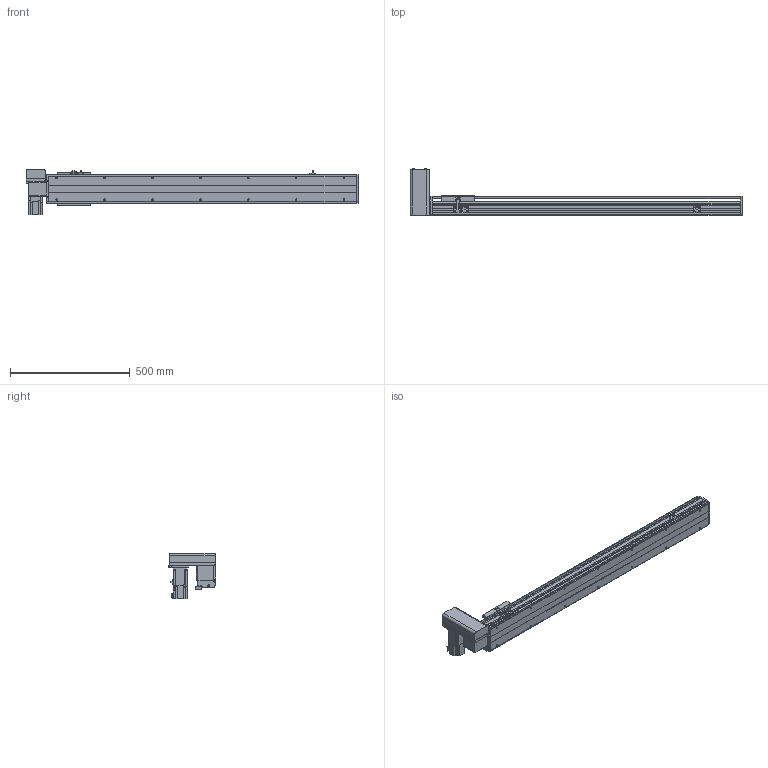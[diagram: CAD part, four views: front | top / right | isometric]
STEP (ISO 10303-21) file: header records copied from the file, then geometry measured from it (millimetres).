
FILE_DESCRIPTION( ( 'STEP AP214' ), '1' );
FILE_NAME( 'x:/temp/worker_27/temp/exporttempdir_6708_231_TDQXR/format_0/PBS120-P40-S1000-RU-T40-C1-N(0).stp', '2022-06-06T00:49:34', ( 'License CC BY-ND 4.0' ), ( 'CADENAS' ), ' ', 'PARTsolutions', ' ' );
FILE_SCHEMA( ( 'AUTOMOTIVE_DESIGN { 1 0 10303 214 1 1 1 1 }' ) );
Length unit declared in the file: millimetre
Products named in the file (7): PBS120-P40-S1000-RU-T40-C1-N(0); _PBS120-S1000()_body; _PBS120T-RU_motors; _T40-p1; _PBS120_sliser; _PBS120_plant; _PBS120_sensor
Assembly tree (8 placements, depth 2):
  PBS120-P40-S1000-RU-T40-C1-N(0)
    _PBS120-S1000()_body
    _PBS120T-RU_motors
    _T40-p1
    _PBS120_sliser
    _PBS120_plant
    _PBS120_sensor  x3
Bounding box: 1386 x 198 x 189.7 mm (x, y, z)
Volume: 5961401.7 mm3; surface area: 1163655.3 mm2
Topology: 8 solids, 8 shells, 822 faces, 2146 edges, 1381 vertices
Faces by surface type: plane 547, cylinder 227, cone 46, torus 2
Full cylindrical faces by diameter (mm): 2.459 x6, 3.242 x4, 4 x2, 4.134 x4, 4.5 x10, 4.917 x18, 5.5 x11, 6 x2, 6.6 x1, 7 x2, 8.5 x4, 9 x4, 12 x1, 14 x1, 30 x2, 40 x1, 50 x2
Entity records: 27156 total; most frequent: DIRECTION 3716, CARTESIAN_POINT 3659, ORIENTED_EDGE 3490, EDGE_CURVE 1745, AXIS2_PLACEMENT_3D 1244, LINE 1228, VECTOR 1228, VERTEX_POINT 1187
